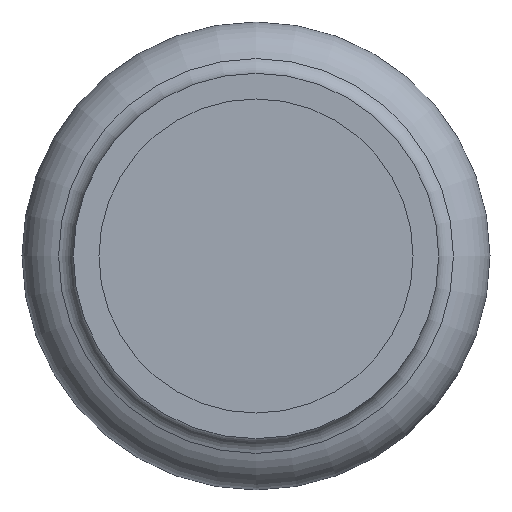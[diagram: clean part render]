
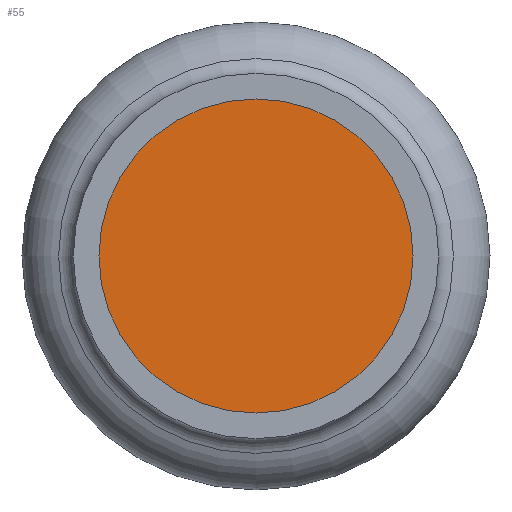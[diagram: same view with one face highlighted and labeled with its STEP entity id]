
A CAD part, front view. The second image highlights one B-rep face of the part: STEP entity #55.
In plain terms, the highlighted planar face has unit normal (0, -1, 0).
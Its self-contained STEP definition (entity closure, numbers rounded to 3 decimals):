
#55=ADVANCED_FACE('',(#92),#94,.T.);
#92=FACE_BOUND('',#93,.T.);
#93=EDGE_LOOP('',(#263));
#94=PLANE('',#95);
#95=AXIS2_PLACEMENT_3D('',#96,#97,#98);
#96=CARTESIAN_POINT('',(0.,7.146,0.));
#97=DIRECTION('',(0.,-1.,0.));
#98=DIRECTION('',(0.,0.,1.));
#263=ORIENTED_EDGE('',*,*,#301,.T.);
#301=EDGE_CURVE('',#323,#323,#324,.F.);
#323=VERTEX_POINT('',#369);
#324=CIRCLE('',#370,7.65);
#369=CARTESIAN_POINT('',(0.,7.146,7.65));
#370=AXIS2_PLACEMENT_3D('',#371,#372,#373);
#371=CARTESIAN_POINT('',(0.,7.146,0.));
#372=DIRECTION('',(0.,1.,0.));
#373=DIRECTION('',(0.,0.,1.));
